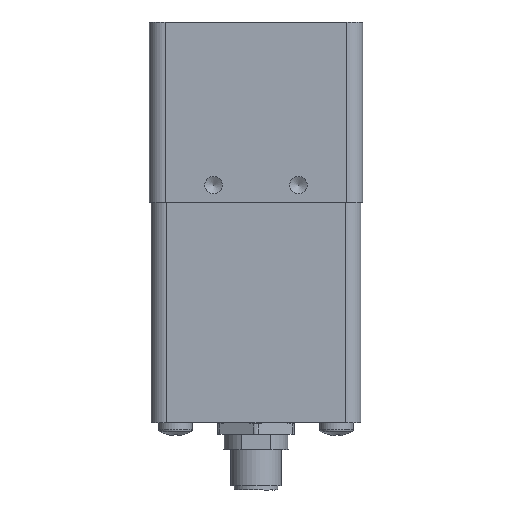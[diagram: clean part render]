
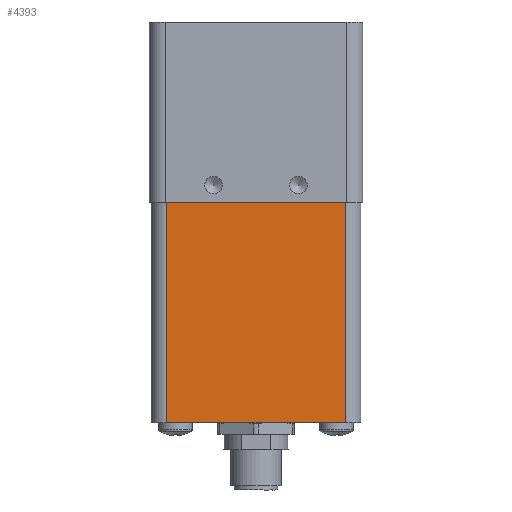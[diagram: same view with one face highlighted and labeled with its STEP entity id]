
A CAD part, front view. The second image highlights one B-rep face of the part: STEP entity #4393.
In plain terms, the highlighted planar face has unit normal (0, -1, 0).
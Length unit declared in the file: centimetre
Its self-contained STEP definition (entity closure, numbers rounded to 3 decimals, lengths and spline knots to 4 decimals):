
#303=LINE('',#6770,#643);
#310=LINE('',#6790,#650);
#311=LINE('',#6792,#651);
#312=LINE('',#6793,#652);
#643=VECTOR('',#5349,4.2);
#650=VECTOR('',#5368,5.2);
#651=VECTOR('',#5369,5.2);
#652=VECTOR('',#5370,4.2);
#919=PLANE('',#4678);
#1234=FACE_OUTER_BOUND('',#1512,.T.);
#1512=EDGE_LOOP('',(#3371,#3372,#3373,#3374));
#2019=VERTEX_POINT('',#6767);
#2020=VERTEX_POINT('',#6769);
#2027=VERTEX_POINT('',#6789);
#2028=VERTEX_POINT('',#6791);
#2510=EDGE_CURVE('',#2019,#2020,#303,.T.);
#2520=EDGE_CURVE('',#2020,#2027,#310,.T.);
#2521=EDGE_CURVE('',#2028,#2019,#311,.T.);
#2522=EDGE_CURVE('',#2028,#2027,#312,.T.);
#3371=ORIENTED_EDGE('',*,*,#2520,.F.);
#3372=ORIENTED_EDGE('',*,*,#2510,.F.);
#3373=ORIENTED_EDGE('',*,*,#2521,.F.);
#3374=ORIENTED_EDGE('',*,*,#2522,.T.);
#4393=ADVANCED_FACE('',(#1234),#919,.T.);
#4678=AXIS2_PLACEMENT_3D('',#6788,#5366,#5367);
#5349=DIRECTION('',(1.,0.,0.));
#5366=DIRECTION('center_axis',(0.,-1.,0.));
#5367=DIRECTION('ref_axis',(0.,0.,-1.));
#5368=DIRECTION('',(0.,0.,-1.));
#5369=DIRECTION('',(0.,0.,1.));
#5370=DIRECTION('',(1.,0.,0.));
#6767=CARTESIAN_POINT('',(0.4175,0.0425,-2.05));
#6769=CARTESIAN_POINT('',(4.6175,0.0425,-2.05));
#6770=CARTESIAN_POINT('',(0.4175,0.0425,-2.05));
#6788=CARTESIAN_POINT('Origin',(0.0425,0.0425,-6.94));
#6789=CARTESIAN_POINT('',(4.6175,0.0425,-7.25));
#6790=CARTESIAN_POINT('',(4.6175,0.0425,-2.05));
#6791=CARTESIAN_POINT('',(0.4175,0.0425,-7.25));
#6792=CARTESIAN_POINT('',(0.4175,0.0425,-7.25));
#6793=CARTESIAN_POINT('',(0.4175,0.0425,-7.25));
